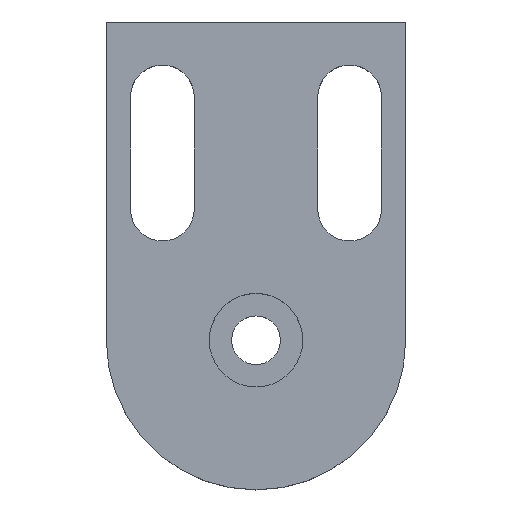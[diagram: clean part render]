
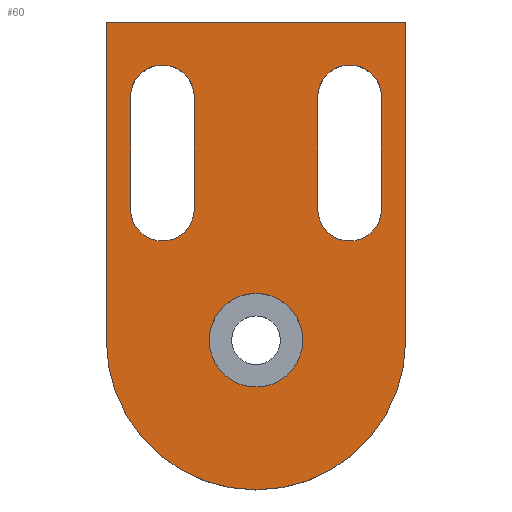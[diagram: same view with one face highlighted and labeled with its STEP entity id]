
A CAD part, top view. The second image highlights one B-rep face of the part: STEP entity #60.
In plain terms, the highlighted planar face has unit normal (0, 0, 1).
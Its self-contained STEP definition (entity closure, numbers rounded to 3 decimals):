
#17 = ORIENTED_EDGE ( 'NONE', *, *, #135, .T. ) ;
#56 = EDGE_LOOP ( 'NONE', ( #57, #165, #180, #17 ) ) ;
#57 = ORIENTED_EDGE ( 'NONE', *, *, #168, .T. ) ;
#59 = ORIENTED_EDGE ( 'NONE', *, *, #78, .F. ) ;
#60 = ADVANCED_FACE ( 'NONE', ( #211, #205, #196, #194 ), #360, .T. ) ;
#61 = VERTEX_POINT ( 'NONE', #359 ) ;
#62 = ORIENTED_EDGE ( 'NONE', *, *, #117, .F. ) ;
#63 = EDGE_LOOP ( 'NONE', ( #138, #113, #112, #62 ) ) ;
#64 = ORIENTED_EDGE ( 'NONE', *, *, #410, .F. ) ;
#65 = EDGE_CURVE ( 'NONE', #61, #102, #358, .T. ) ;
#66 = EDGE_CURVE ( 'NONE', #67, #61, #204, .T. ) ;
#67 = VERTEX_POINT ( 'NONE', #349 ) ;
#74 = VERTEX_POINT ( 'NONE', #348 ) ;
#75 = EDGE_CURVE ( 'NONE', #74, #120, #281, .T. ) ;
#78 = EDGE_CURVE ( 'NONE', #408, #395, #263, .T. ) ;
#100 = EDGE_LOOP ( 'NONE', ( #59, #64 ) ) ;
#102 = VERTEX_POINT ( 'NONE', #370 ) ;
#106 = EDGE_CURVE ( 'NONE', #107, #108, #374, .T. ) ;
#107 = VERTEX_POINT ( 'NONE', #373 ) ;
#108 = VERTEX_POINT ( 'NONE', #319 ) ;
#109 = EDGE_LOOP ( 'NONE', ( #110, #163, #116, #162 ) ) ;
#110 = ORIENTED_EDGE ( 'NONE', *, *, #106, .F. ) ;
#112 = ORIENTED_EDGE ( 'NONE', *, *, #114, .F. ) ;
#113 = ORIENTED_EDGE ( 'NONE', *, *, #66, .F. ) ;
#114 = EDGE_CURVE ( 'NONE', #115, #67, #315, .T. ) ;
#115 = VERTEX_POINT ( 'NONE', #316 ) ;
#116 = ORIENTED_EDGE ( 'NONE', *, *, #164, .F. ) ;
#117 = EDGE_CURVE ( 'NONE', #102, #115, #308, .T. ) ;
#120 = VERTEX_POINT ( 'NONE', #320 ) ;
#135 = EDGE_CURVE ( 'NONE', #120, #183, #456, .T. ) ;
#136 = EDGE_CURVE ( 'NONE', #174, #74, #591, .T. ) ;
#138 = ORIENTED_EDGE ( 'NONE', *, *, #65, .F. ) ;
#160 = EDGE_CURVE ( 'NONE', #161, #107, #548, .T. ) ;
#161 = VERTEX_POINT ( 'NONE', #584 ) ;
#162 = ORIENTED_EDGE ( 'NONE', *, *, #166, .F. ) ;
#163 = ORIENTED_EDGE ( 'NONE', *, *, #160, .F. ) ;
#164 = EDGE_CURVE ( 'NONE', #167, #161, #549, .T. ) ;
#165 = ORIENTED_EDGE ( 'NONE', *, *, #136, .T. ) ;
#166 = EDGE_CURVE ( 'NONE', #108, #167, #444, .T. ) ;
#167 = VERTEX_POINT ( 'NONE', #446 ) ;
#168 = EDGE_CURVE ( 'NONE', #183, #174, #545, .T. ) ;
#174 = VERTEX_POINT ( 'NONE', #439 ) ;
#180 = ORIENTED_EDGE ( 'NONE', *, *, #75, .T. ) ;
#183 = VERTEX_POINT ( 'NONE', #427 ) ;
#194 = FACE_OUTER_BOUND ( 'NONE', #56, .T. ) ;
#195 = AXIS2_PLACEMENT_3D ( 'NONE', #357, #356, #355 ) ;
#196 = FACE_BOUND ( 'NONE', #109, .T. ) ;
#204 = LINE ( 'NONE', #284, #283 ) ;
#205 = FACE_BOUND ( 'NONE', #63, .T. ) ;
#211 = FACE_BOUND ( 'NONE', #100, .T. ) ;
#258 = DIRECTION ( 'NONE',  ( 1., 0., 0. ) ) ;
#259 = DIRECTION ( 'NONE',  ( 0., 0., 1. ) ) ;
#260 = AXIS2_PLACEMENT_3D ( 'NONE', #272, #259, #258 ) ;
#263 = CIRCLE ( 'NONE', #260, 6.25 ) ;
#264 = DIRECTION ( 'NONE',  ( -1., 0., 0. ) ) ;
#265 = VECTOR ( 'NONE', #264, 1000. ) ;
#272 = CARTESIAN_POINT ( 'NONE',  ( 0., 0., 4. ) ) ;
#279 = CARTESIAN_POINT ( 'NONE',  ( 20., 42.5, 4. ) ) ;
#281 = LINE ( 'NONE', #279, #265 ) ;
#282 = DIRECTION ( 'NONE',  ( 0., -1., 0. ) ) ;
#283 = VECTOR ( 'NONE', #282, 1000. ) ;
#284 = CARTESIAN_POINT ( 'NONE',  ( 8.25, 17.5, 4. ) ) ;
#304 = DIRECTION ( 'NONE',  ( 0., 1., 0. ) ) ;
#305 = VECTOR ( 'NONE', #304, 1000. ) ;
#306 = CARTESIAN_POINT ( 'NONE',  ( 16.75, 17.5, 4. ) ) ;
#308 = LINE ( 'NONE', #306, #305 ) ;
#309 = DIRECTION ( 'NONE',  ( -1., 0., 0. ) ) ;
#312 = DIRECTION ( 'NONE',  ( 0., 0., 1. ) ) ;
#313 = CARTESIAN_POINT ( 'NONE',  ( 12.5, 32.5, 4. ) ) ;
#314 = AXIS2_PLACEMENT_3D ( 'NONE', #313, #312, #309 ) ;
#315 = CIRCLE ( 'NONE', #314, 4.25 ) ;
#316 = CARTESIAN_POINT ( 'NONE',  ( 16.75, 32.5, 4. ) ) ;
#317 = DIRECTION ( 'NONE',  ( 1., 0., 0. ) ) ;
#318 = DIRECTION ( 'NONE',  ( 0., 0., 1. ) ) ;
#319 = CARTESIAN_POINT ( 'NONE',  ( -8.25, 17.5, 4. ) ) ;
#320 = CARTESIAN_POINT ( 'NONE',  ( -20., 42.5, 4. ) ) ;
#324 = AXIS2_PLACEMENT_3D ( 'NONE', #325, #318, #317 ) ;
#325 = CARTESIAN_POINT ( 'NONE',  ( -12.5, 17.5, 4. ) ) ;
#348 = CARTESIAN_POINT ( 'NONE',  ( 20., 42.5, 4. ) ) ;
#349 = CARTESIAN_POINT ( 'NONE',  ( 8.25, 32.5, 4. ) ) ;
#350 = DIRECTION ( 'NONE',  ( -1., 0., 0. ) ) ;
#351 = DIRECTION ( 'NONE',  ( 0., 0., 1. ) ) ;
#352 = CARTESIAN_POINT ( 'NONE',  ( 12.5, 17.5, 4. ) ) ;
#354 = AXIS2_PLACEMENT_3D ( 'NONE', #352, #351, #350 ) ;
#355 = DIRECTION ( 'NONE',  ( 1., 0., 0. ) ) ;
#356 = DIRECTION ( 'NONE',  ( 0., 0., 1. ) ) ;
#357 = CARTESIAN_POINT ( 'NONE',  ( 0., 0., 4. ) ) ;
#358 = CIRCLE ( 'NONE', #354, 4.25 ) ;
#359 = CARTESIAN_POINT ( 'NONE',  ( 8.25, 17.5, 4. ) ) ;
#360 = PLANE ( 'NONE',  #195 ) ;
#370 = CARTESIAN_POINT ( 'NONE',  ( 16.75, 17.5, 4. ) ) ;
#373 = CARTESIAN_POINT ( 'NONE',  ( -16.75, 17.5, 4. ) ) ;
#374 = CIRCLE ( 'NONE', #324, 4.25 ) ;
#395 = VERTEX_POINT ( 'NONE', #537 ) ;
#408 = VERTEX_POINT ( 'NONE', #462 ) ;
#410 = EDGE_CURVE ( 'NONE', #395, #408, #458, .T. ) ;
#417 = CARTESIAN_POINT ( 'NONE',  ( -20., 0., 4. ) ) ;
#427 = CARTESIAN_POINT ( 'NONE',  ( -20., 0., 4. ) ) ;
#436 = DIRECTION ( 'NONE',  ( 1., 0., 0. ) ) ;
#437 = DIRECTION ( 'NONE',  ( 0., 0., 1. ) ) ;
#438 = CARTESIAN_POINT ( 'NONE',  ( 0., 0., 4. ) ) ;
#439 = CARTESIAN_POINT ( 'NONE',  ( 20., 0., 4. ) ) ;
#442 = DIRECTION ( 'NONE',  ( 0., 1., 0. ) ) ;
#443 = VECTOR ( 'NONE', #442, 1000. ) ;
#444 = LINE ( 'NONE', #544, #443 ) ;
#446 = CARTESIAN_POINT ( 'NONE',  ( -8.25, 32.5, 4. ) ) ;
#447 = DIRECTION ( 'NONE',  ( 1., 0., 0. ) ) ;
#456 = LINE ( 'NONE', #417, #566 ) ;
#458 = CIRCLE ( 'NONE', #512, 6.25 ) ;
#462 = CARTESIAN_POINT ( 'NONE',  ( 6.25, 0., 4. ) ) ;
#509 = DIRECTION ( 'NONE',  ( 1., 0., 0. ) ) ;
#510 = DIRECTION ( 'NONE',  ( 0., 0., 1. ) ) ;
#511 = CARTESIAN_POINT ( 'NONE',  ( 0., 0., 4. ) ) ;
#512 = AXIS2_PLACEMENT_3D ( 'NONE', #511, #510, #509 ) ;
#537 = CARTESIAN_POINT ( 'NONE',  ( -6.25, 0., 4. ) ) ;
#540 = CARTESIAN_POINT ( 'NONE',  ( 20., 0., 4. ) ) ;
#543 = DIRECTION ( 'NONE',  ( 0., 0., 1. ) ) ;
#544 = CARTESIAN_POINT ( 'NONE',  ( -8.25, 17.5, 4. ) ) ;
#545 = CIRCLE ( 'NONE', #576, 20. ) ;
#546 = DIRECTION ( 'NONE',  ( 0., -1., 0. ) ) ;
#547 = VECTOR ( 'NONE', #546, 1000. ) ;
#548 = LINE ( 'NONE', #552, #547 ) ;
#549 = CIRCLE ( 'NONE', #578, 4.25 ) ;
#552 = CARTESIAN_POINT ( 'NONE',  ( -16.75, 17.5, 4. ) ) ;
#565 = DIRECTION ( 'NONE',  ( 0., -1., 0. ) ) ;
#566 = VECTOR ( 'NONE', #565, 1000. ) ;
#576 = AXIS2_PLACEMENT_3D ( 'NONE', #438, #437, #436 ) ;
#578 = AXIS2_PLACEMENT_3D ( 'NONE', #583, #543, #447 ) ;
#583 = CARTESIAN_POINT ( 'NONE',  ( -12.5, 32.5, 4. ) ) ;
#584 = CARTESIAN_POINT ( 'NONE',  ( -16.75, 32.5, 4. ) ) ;
#589 = DIRECTION ( 'NONE',  ( 0., 1., 0. ) ) ;
#590 = VECTOR ( 'NONE', #589, 1000. ) ;
#591 = LINE ( 'NONE', #540, #590 ) ;
